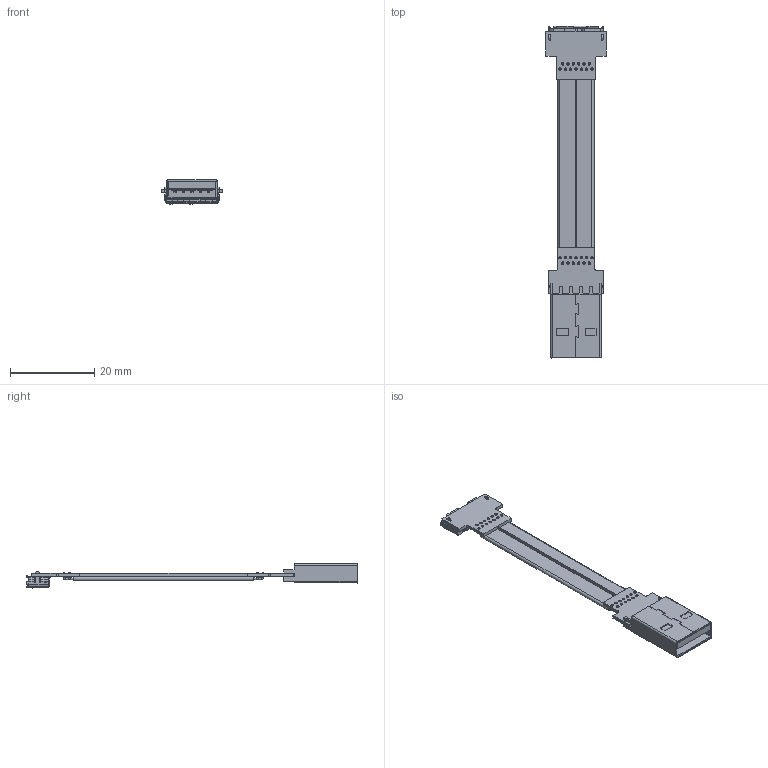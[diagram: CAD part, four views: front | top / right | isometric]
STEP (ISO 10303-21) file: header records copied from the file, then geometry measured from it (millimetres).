
FILE_DESCRIPTION(('Open CASCADE Model'),'2;1');
FILE_NAME('Open CASCADE Shape Model','2022-04-17T17:37:54',('Author'),( 'Open CASCADE'),'Open CASCADE STEP processor 6.8','Open CASCADE 6.8' ,'Unknown');
FILE_SCHEMA(('AUTOMOTIVE_DESIGN { 1 0 10303 214 1 1 1 1 }'));
Length unit declared in the file: millimetre
Products named in the file (42): PCB; Board; Open CASCADE STEP translator 6.8 15.1.1; Open CASCADE STEP translator 6.8 15.2; USB_公头_20211210（3）; Designator63; microusb3_female; Free-Models; cable13-US2A
Assembly tree (41 placements, depth 3):
  PCB
    Board
      Open CASCADE STEP translator 6.8 15.1.1
    Open CASCADE STEP translator 6.8 15.2
      USB_公头_20211210（3）
      USB_公头_20211210（3）
      USB_公头_20211210（3）
      USB_公头_20211210（3）
      USB_公头_20211210（3）
      USB_公头_20211210（3）
      USB_公头_20211210（3）
      USB_公头_20211210（3）
    Designator63
      microusb3_female
    Free-Models
      cable13-US2A
      cable13-US2A
      cable13-US2A
      cable13-US2A
      cable13-US2A
      cable13-US2A
      cable13-US2A
      cable13-US2A
      cable13-US2A
      cable13-US2A
      cable13-US2A
      cable13-US2A
      cable13-US2A
      cable13-US2A
      cable13-US2A
      cable13-US2A
      cable13-US2A
      cable13-US2A
      cable13-US2A
      cable13-US2A
      cable13-US2A
      cable13-US2A
      cable13-US2A
      cable13-US2A
      cable13-US2A
      cable13-US2A
      cable13-US2A
Bounding box: 14.48 x 78.91 x 5.79 mm (x, y, z)
Volume: 1142.8 mm3; surface area: 4275.7 mm2
Topology: 37 solids, 37 shells, 1033 faces, 2690 edges, 1741 vertices
Faces by surface type: plane 655, cylinder 337, torus 30, sphere 8, cone 3
Full cylindrical faces by diameter (mm): 0.4 x65, 0.6 x26
Entity records: 36628 total; most frequent: CARTESIAN_POINT 5971, DIRECTION 5390, ORIENTED_EDGE 5358, EDGE_CURVE 2679, LINE 1872, VECTOR 1872, AXIS2_PLACEMENT_3D 1759, VERTEX_POINT 1741
